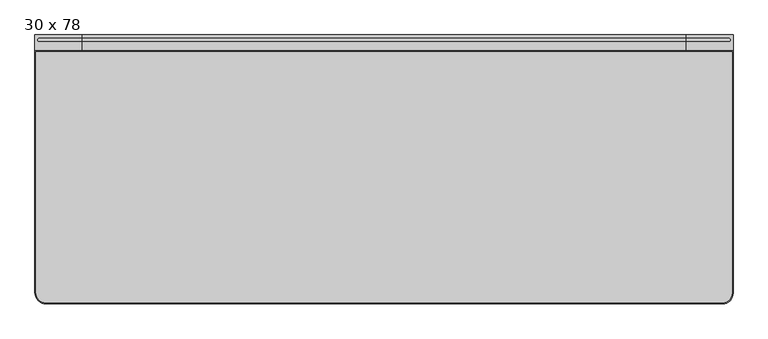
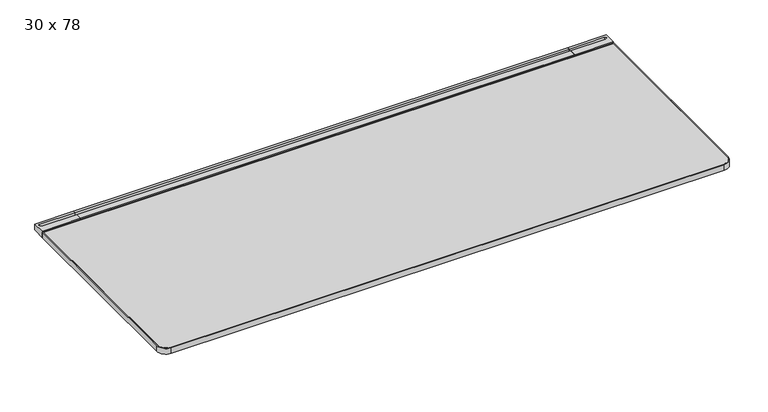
"""IFC4 building model written with IfcOpenShell, lengths in millimetres: furniture geometry, Steelcase - C Scape - Desking - Straight : 30 x 78."""

from ifc_helpers import new_model, si_unit, point, frame, frame_2d, origin, place, context, project, spatial, polyline, circle_curve, trimmed, segment, composite_curve, outline, extrude, faceted_brep, source, transform, mapped, element, save
from ifc_brep_helpers import plane_surface, cylinder_surface, revolved_surface, advanced_brep


def furniture_30_x_78_0295c53c(model_context):
    return source(origin(), model_context, "Body", "SolidModel", [
        advanced_brep(
        [(1846.6562243, -45.3135132, 703.3768), (1846.6562243, -45.3135132, 722.4268341), (1846.6562243, -42.7750923, 722.4268341), (1846.6562243, -42.7750923, 725.932), (1846.6562243, -19.3290527, 725.932), (1846.6562243, -19.3290527, 713.486), (1846.6562243, -8.5111084, 713.486), (1846.6562243, -8.5111084, 725.932), (1846.6562243, 0.0, 725.932), (1846.6562243, 0.0, 705.1038636), (1846.6562243, -3.2278472, 705.1038636), (1846.6562243, -4.0331902, 703.3768), (1979.6760119, -45.3135132, 703.3768), (1979.6760119, -4.0331902, 703.3768), (1979.6760119, -3.2278472, 705.1038636), (1979.6760119, 0.0, 705.1038636), (1979.6760119, 0.0, 725.932), (1979.6760119, -42.7750923, 725.932), (1979.6760119, -42.7750923, 722.4268341), (1979.6760119, -45.3135132, 722.4268341), (1967.9139392, -8.5111084, 725.932), (1967.9139392, -19.3290527, 725.932), (1967.9139392, -19.3290527, 713.486), (1967.9139392, -8.5111084, 713.486)],
        [
            (0, 1),
            (1, 2),
            (2, 3),
            (3, 4),
            (4, 5),
            (5, 6),
            (6, 7),
            (7, 8),
            (8, 9),
            (9, 10),
            (10, 11),
            (11, 0),
            (12, 13),
            (13, 14),
            (14, 15),
            (15, 16),
            (16, 17),
            (17, 18),
            (18, 19),
            (19, 12),
            (11, 13),
            (12, 0),
            (10, 14),
            (9, 15),
            (8, 16),
            (7, 20),
            (20, 21, circle_curve(frame((1967.9139392, -13.9200806, 725.932), z_axis=(0.0, 0.0, -1.0), x_axis=(-1.0, 0.0, 0.0)), 5.4089722)),
            (21, 4),
            (3, 17),
            (2, 18),
            (1, 19),
            (5, 22),
            (22, 23, circle_curve(frame((1967.9139392, -13.9200806, 713.486), z_axis=(0.0, 0.0, 1.0), x_axis=(-1.0, 0.0, 0.0)), 5.4089722)),
            (23, 6),
            (23, 20),
            (22, 21),
        ],
        [
            plane_surface(frame((1846.6562243, -45.3135132, 703.3768), z_axis=(-1.0, 0.0, 0.0), x_axis=(0.0, 1.0, 0.0))),
            plane_surface(frame((1979.6760119, -45.3135132, 703.3768), z_axis=(1.0, 0.0, 0.0), x_axis=(0.0, -1.0, 0.0))),
            plane_surface(frame((1846.6562243, -45.3135132, 703.3768), z_axis=(0.0, 0.0, -1.0), x_axis=(1.0, 0.0, 0.0))),
            plane_surface(frame((1846.6562243, -4.0331902, 703.3768), z_axis=(0.0, 0.9063077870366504, -0.4226182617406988), x_axis=(1.0, 0.0, 0.0))),
            plane_surface(frame((1846.6562243, -3.2278472, 705.1038636), z_axis=(0.0, 0.0, -1.0), x_axis=(1.0, 0.0, 0.0))),
            plane_surface(frame((1846.6562243, 0.0, 705.1038636), z_axis=(0.0, 1.0, 0.0), x_axis=(1.0, 0.0, 0.0))),
            plane_surface(frame((1846.6562243, 0.0, 725.932), z_axis=(0.0, 0.0, 1.0), x_axis=(1.0, 0.0, 0.0))),
            plane_surface(frame((1846.6562243, -42.7750923, 725.932), z_axis=(0.0, -1.0, 0.0), x_axis=(1.0, 0.0, 0.0))),
            plane_surface(frame((1846.6562243, -42.7750923, 722.4268341), z_axis=(0.0, 0.0, 1.0), x_axis=(1.0, 0.0, 0.0))),
            plane_surface(frame((1846.6562243, -45.3135132, 722.4268341), z_axis=(0.0, -1.0, 0.0), x_axis=(1.0, 0.0, 0.0))),
            plane_surface(frame((1967.9139392, -8.5111084, 713.486), z_axis=(0.0, 0.0, 1.0), x_axis=(-1.0, 0.0, 0.0))),
            plane_surface(frame((1846.6562243, -8.5111084, 731.2180541), z_axis=(0.0, -1.0, 0.0), x_axis=(0.0, 0.0, -1.0))),
            revolved_surface(polyline([(1962.5049669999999, -13.9200806, 725.932), (1962.5049669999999, -13.9200806, 713.486)]), (1967.9139392, -13.9200806, 713.486), (0.0, 0.0, 1.0)),
            plane_surface(frame((1967.9139392, -19.3290527, 731.2180541), z_axis=(0.0, 1.0, 0.0), x_axis=(0.0, 0.0, -1.0))),
        ],
        [
            (0, [[1, 2, 3, 4, 5, 6, 7, 8, 9, 10, 11, 12]]),
            (1, [[13, 14, 15, 16, 17, 18, 19, 20]]),
            (2, [[21, -13, 22, -12]]),
            (3, [[23, -14, -21, -11]]),
            (4, [[24, -15, -23, -10]]),
            (5, [[25, -16, -24, -9]]),
            (6, [[-25, -8, 26, 27, 28, -4, 29, -17]]),
            (7, [[30, -18, -29, -3]]),
            (8, [[31, -19, -30, -2]]),
            (9, [[-22, -20, -31, -1]]),
            (10, [[-6, 32, 33, 34]]),
            (11, [[35, -26, -7, -34]]),
            (12, [[36, -27, -35, -33]]),
            (13, [[-5, -28, -36, -32]]),
        ],
    ),
        faceted_brep([(1960.6252487, -565.0752923, 700.7093833), (1960.6252487, -565.0752923, 703.3768), (1846.6562243, -565.0752923, 703.3768), (1846.6562243, -565.0752923, 679.3263935), (1862.2903818, -565.0752923, 679.3263935), (1864.910924, -565.0752923, 693.4200291), (1946.3501391, -565.0752923, 693.4200291), (1960.6252487, -4.0331902, 700.7093833), (1946.3501391, -4.0331902, 693.4200291), (1864.910924, -4.0331902, 693.4200291), (1853.0046772, -4.0331902, 629.3866), (1846.6562243, -4.0331902, 629.3866), (1846.6562243, -4.0331902, 703.3768), (1960.6252487, -4.0331902, 703.3768), (1860.1251068, -376.5599397, 667.6812472), (1853.0046772, -364.1172546, 629.3866), (1846.6562243, -364.1172546, 629.3866), (1846.6562243, -376.5599397, 667.6812472)], [[[0, 1, 2, 3, 4, 5, 6]], [[7, 8, 9, 10, 11, 12, 13]], [[6, 8, 7, 0]], [[5, 9, 8, 6]], [[9, 5, 4, 14, 15, 10]], [[10, 15, 16, 11]], [[11, 16, 17, 3, 2, 12]], [[1, 13, 12, 2]], [[0, 7, 13, 1]], [[14, 4, 3, 17]], [[17, 16, 15, 14]]]),
        extrude(outline(composite_curve([segment(polyline([(-293.5216187, 657.3775839), (-559.0022133, 680.1371551)]), True, "CONTINUOUS"), segment(trimmed(circle_curve(frame_2d((-558.7581271, 682.9843154)), 2.8576039), [point((-559.0022133, 680.1371551))], [point((-561.5383043, 682.3236226))], False, "CARTESIAN"), True, "CONTINUOUS"), segment(polyline([(-561.5383043, 682.3236226), (-566.0887542, 701.4717905), (-557.8334441, 701.4717905), (-557.8334441, 703.3768), (-442.6683806, 703.3768), (-442.6683806, 696.3917953), (-318.2108611, 696.3917953), (-318.2108611, 703.3768), (-293.5216187, 703.3768), (-293.5216187, 657.3775839)]), True, "CONTINUOUS")], self_intersect=False)), frame((954.024, 0.0, 0.0), z_axis=(1.0, 0.0, 0.0), x_axis=(0.0, 1.0, 0.0)), (0.0, 0.0, 1.0), 73.152),
        advanced_brep(
        [(134.6072876, -45.3135132, 703.3768), (134.6072876, -4.0331902, 703.3768), (134.6072876, -3.2278472, 705.1038636), (134.6072876, 0.0, 705.1038636), (134.6072876, 0.0, 725.932), (134.6072876, -8.5111084, 725.932), (134.6072876, -8.5111084, 713.486), (134.6072876, -19.3290527, 713.486), (134.6072876, -19.3290527, 725.932), (134.6072876, -42.7750923, 725.932), (134.6072876, -42.7750923, 722.4268341), (134.6072876, -45.3135132, 722.4268341), (1.5875, -45.3135132, 703.3768), (1.5875, -45.3135132, 722.4268341), (1.5875, -42.7750923, 722.4268341), (1.5875, -42.7750923, 725.932), (1.5875, 0.0, 725.932), (1.5875, 0.0, 705.1038636), (1.5875, -3.2278472, 705.1038636), (1.5875, -4.0331902, 703.3768), (13.3495728, -19.3290527, 725.932), (13.3495728, -8.5111084, 725.932), (13.3495728, -8.5111084, 713.486), (13.3495728, -19.3290527, 713.486)],
        [
            (0, 1),
            (1, 2),
            (2, 3),
            (3, 4),
            (4, 5),
            (5, 6),
            (6, 7),
            (7, 8),
            (8, 9),
            (9, 10),
            (10, 11),
            (11, 0),
            (12, 13),
            (13, 14),
            (14, 15),
            (15, 16),
            (16, 17),
            (17, 18),
            (18, 19),
            (19, 12),
            (0, 12),
            (19, 1),
            (18, 2),
            (17, 3),
            (16, 4),
            (15, 9),
            (8, 20),
            (20, 21, circle_curve(frame((13.3495728, -13.9200806, 725.932), z_axis=(0.0, 0.0, -1.0), x_axis=(1.0, 0.0, 0.0)), 5.4089722)),
            (21, 5),
            (14, 10),
            (13, 11),
            (6, 22),
            (22, 23, circle_curve(frame((13.3495728, -13.9200806, 713.486), z_axis=(0.0, 0.0, 1.0), x_axis=(1.0, 0.0, 0.0)), 5.4089722)),
            (23, 7),
            (21, 22),
            (20, 23),
        ],
        [
            plane_surface(frame((134.6072876, -45.3135132, 703.3768), z_axis=(1.0, 0.0, 0.0), x_axis=(0.0, 1.0, 0.0))),
            plane_surface(frame((1.5875, -45.3135132, 703.3768), z_axis=(-1.0, 0.0, 0.0), x_axis=(0.0, -1.0, 0.0))),
            plane_surface(frame((134.6072876, -45.3135132, 703.3768), z_axis=(0.0, 0.0, -1.0), x_axis=(-1.0, 0.0, 0.0))),
            plane_surface(frame((134.6072876, -4.0331902, 703.3768), z_axis=(0.0, 0.9063077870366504, -0.4226182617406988), x_axis=(-1.0, 0.0, 0.0))),
            plane_surface(frame((134.6072876, -3.2278472, 705.1038636), z_axis=(0.0, 0.0, -1.0), x_axis=(-1.0, 0.0, 0.0))),
            plane_surface(frame((134.6072876, 0.0, 705.1038636), z_axis=(0.0, 1.0, 0.0), x_axis=(-1.0, 0.0, 0.0))),
            plane_surface(frame((134.6072876, 0.0, 725.932), z_axis=(0.0, 0.0, 1.0), x_axis=(-1.0, 0.0, 0.0))),
            plane_surface(frame((134.6072876, -42.7750923, 725.932), z_axis=(0.0, -1.0, 0.0), x_axis=(-1.0, 0.0, 0.0))),
            plane_surface(frame((134.6072876, -42.7750923, 722.4268341), z_axis=(0.0, 0.0, 1.0), x_axis=(-1.0, 0.0, 0.0))),
            plane_surface(frame((134.6072876, -45.3135132, 722.4268341), z_axis=(0.0, -1.0, 0.0), x_axis=(-1.0, 0.0, 0.0))),
            plane_surface(frame((13.3495728, -8.5111084, 713.486), z_axis=(0.0, 0.0, 1.0), x_axis=(1.0, 0.0, 0.0))),
            plane_surface(frame((134.6072876, -8.5111084, 731.2180541), z_axis=(0.0, -1.0, 0.0), x_axis=(0.0, 0.0, -1.0))),
            revolved_surface(polyline([(18.758545, -13.9200806, 725.932), (18.758545, -13.9200806, 713.486)]), (13.3495728, -13.9200806, 713.486), (0.0, 0.0, 1.0)),
            plane_surface(frame((13.3495728, -19.3290527, 731.2180541), z_axis=(0.0, 1.0, 0.0), x_axis=(0.0, 0.0, -1.0))),
        ],
        [
            (0, [[1, 2, 3, 4, 5, 6, 7, 8, 9, 10, 11, 12]]),
            (1, [[13, 14, 15, 16, 17, 18, 19, 20]]),
            (2, [[-1, 21, -20, 22]]),
            (3, [[-2, -22, -19, 23]]),
            (4, [[-3, -23, -18, 24]]),
            (5, [[-4, -24, -17, 25]]),
            (6, [[-16, 26, -9, 27, 28, 29, -5, -25]]),
            (7, [[-10, -26, -15, 30]]),
            (8, [[-11, -30, -14, 31]]),
            (9, [[-12, -31, -13, -21]]),
            (10, [[32, 33, 34, -7]]),
            (11, [[-32, -6, -29, 35]]),
            (12, [[-33, -35, -28, 36]]),
            (13, [[-34, -36, -27, -8]]),
        ],
    ),
        faceted_brep([(20.6382632, -565.0752923, 700.7093833), (34.9133728, -565.0752923, 693.4200291), (116.3525879, -565.0752923, 693.4200291), (118.9731301, -565.0752923, 679.3263935), (134.6072876, -565.0752923, 679.3263935), (134.6072876, -565.0752923, 703.3768), (20.6382632, -565.0752923, 703.3768), (20.6382632, -4.0331902, 700.7093833), (20.6382632, -4.0331902, 703.3768), (134.6072876, -4.0331902, 703.3768), (134.6072876, -4.0331902, 629.3866), (128.2588347, -4.0331902, 629.3866), (116.3525879, -4.0331902, 693.4200291), (34.9133728, -4.0331902, 693.4200291), (128.2588347, -364.1172546, 629.3866), (121.1384051, -376.5599397, 667.6812472), (134.6072876, -364.1172546, 629.3866), (134.6072876, -376.5599397, 667.6812472)], [[[0, 1, 2, 3, 4, 5, 6]], [[7, 8, 9, 10, 11, 12, 13]], [[1, 0, 7, 13]], [[2, 1, 13, 12]], [[12, 11, 14, 15, 3, 2]], [[11, 10, 16, 14]], [[10, 9, 5, 4, 17, 16]], [[6, 5, 9, 8]], [[0, 6, 8, 7]], [[15, 17, 4, 3]], [[17, 15, 14, 16]]]),
        extrude(outline(polyline([(-8.5111084, 725.932), (0.0, 725.932), (0.0, 705.1038636), (-3.2278472, 705.1038636), (-4.0331902, 703.3768), (-45.3135132, 703.3768), (-45.3135132, 722.4268341), (-42.7750923, 722.4268341), (-42.7750923, 725.932), (-19.3290527, 725.932), (-19.3290527, 713.486), (-8.5111084, 713.486), (-8.5111084, 725.932)])), frame((134.6072876, 0.0, 0.0), z_axis=(1.0, 0.0, 0.0), x_axis=(0.0, 1.0, 0.0)), (0.0, 0.0, 1.0), 1712.0489367),
        extrude(outline(polyline([(134.6072876, -293.5216187), (134.6072876, -4.0331902), (1846.6562243, -4.0331902), (1846.6562243, -293.5216187), (134.6072876, -293.5216187)])), frame((0.0, 0.0, 629.3866), z_axis=(0.0, 0.0, 1.0), x_axis=(1.0, 0.0, 0.0)), (0.0, 0.0, 1.0), 73.9902),
        advanced_brep(
        [(4.6355, -48.3660689, 723.9), (4.6355, -730.25, 723.9), (33.3375, -758.9490234, 723.9), (1949.8737019, -758.9490234, 723.9), (1976.6273608, -732.1953645, 723.9), (1976.6273608, -48.3660689, 723.9), (4.6355, -48.3660689, 703.3768), (1976.6273608, -48.3660689, 703.3768), (1976.6273608, -732.1953645, 703.3768), (1949.8737019, -758.9490234, 703.3768), (33.3375, -758.9490234, 703.3768), (4.6384766, -730.25, 703.3768)],
        [
            (0, 1),
            (1, 2, circle_curve(frame((33.3375, -730.25, 723.9), z_axis=(0.0, 0.0, 1.0), x_axis=(1.0, 0.0, 0.0)), 28.6990234)),
            (2, 3),
            (3, 4, circle_curve(frame((1949.8737019, -732.1953645, 723.9), z_axis=(0.0, 0.0, 1.0), x_axis=(1.0, 0.0, 0.0)), 26.7536589)),
            (4, 5),
            (5, 0),
            (6, 7),
            (7, 8),
            (8, 9, circle_curve(frame((1949.8737019, -732.1953645, 703.3768), z_axis=(0.0, 0.0, -1.0), x_axis=(1.0, 0.0, 0.0)), 26.7536589)),
            (9, 10),
            (10, 11, circle_curve(frame((33.3375, -730.25, 703.3768), z_axis=(0.0, 0.0, -1.0), x_axis=(1.0, 0.0, 0.0)), 28.6990234)),
            (11, 6),
            (0, 6),
            (11, 1),
            (10, 2),
            (9, 3),
            (8, 4),
            (7, 5),
        ],
        [
            plane_surface(frame((4.6355, -48.3660689, 723.9), z_axis=(0.0, 0.0, 1.0), x_axis=(0.0, -1.0, 0.0))),
            plane_surface(frame((4.6355, -48.3660689, 703.3768), z_axis=(0.0, 0.0, -1.0), x_axis=(0.0, 1.0, 0.0))),
            plane_surface(frame((4.6355, -48.3660689, 723.9), z_axis=(-1.0, 0.0, 0.0), x_axis=(0.0, 0.0, -1.0))),
            cylinder_surface(frame((33.3375, -730.25, 703.3768), z_axis=(0.0, 0.0, 1.0), x_axis=(1.0, 0.0, 0.0)), 28.6990234),
            plane_surface(frame((33.3375, -758.9490234, 723.9), z_axis=(0.0, -1.0, 0.0), x_axis=(0.0, 0.0, -1.0))),
            cylinder_surface(frame((1949.8737019, -732.1953645, 703.3768), z_axis=(0.0, 0.0, 1.0), x_axis=(1.0, 0.0, 0.0)), 26.7536589),
            plane_surface(frame((1976.6273608, -732.1953645, 723.9), z_axis=(1.0, 0.0, 0.0), x_axis=(0.0, 0.0, -1.0))),
            plane_surface(frame((1976.6273608, -48.3660689, 723.9), z_axis=(0.0, 1.0, 0.0), x_axis=(0.0, 0.0, -1.0))),
        ],
        [
            (0, [[1, 2, 3, 4, 5, 6]]),
            (1, [[7, 8, 9, 10, 11, 12]]),
            (2, [[-1, 13, -12, 14]]),
            (3, [[-2, -14, -11, 15]]),
            (4, [[-3, -15, -10, 16]]),
            (5, [[-4, -16, -9, 17]]),
            (6, [[-5, -17, -8, 18]]),
            (7, [[-6, -18, -7, -13]]),
        ],
    ),
        extrude(outline(composite_curve([segment(trimmed(circle_curve(frame_2d((33.3375, -730.25)), 31.75), [point((33.3375, -762.0))], [point((1.5875, -730.25))], False, "CARTESIAN"), True, "CONTINUOUS"), segment(polyline([(1.5875, -730.25), (1.5875, -45.3150923), (1979.676, -45.3150923), (1979.676, -732.1250374)]), True, "CONTINUOUS"), segment(trimmed(circle_curve(frame_2d((1949.8010374, -732.1250374)), 29.8749626), [point((1979.676, -732.1250374))], [point((1949.8010374, -762.0))], False, "CARTESIAN"), True, "CONTINUOUS"), segment(polyline([(1949.8010374, -762.0), (33.3375, -762.0)]), True, "CONTINUOUS")], self_intersect=False), holes=[composite_curve([segment(polyline([(1976.6250234, -48.3660689), (4.6384766, -48.3660689), (4.6384766, -730.25)]), True, "CONTINUOUS"), segment(trimmed(circle_curve(frame_2d((33.3375, -730.25)), 28.6990234), [point((4.6384766, -730.25))], [point((33.3375, -758.9490234))], True, "CARTESIAN"), True, "CONTINUOUS"), segment(polyline([(33.3375, -758.9490234), (1949.8010374, -758.9490234)]), True, "CONTINUOUS"), segment(trimmed(circle_curve(frame_2d((1949.8010374, -732.1250374)), 26.8239861), [point((1949.8010374, -758.9490234))], [point((1976.6250234, -732.1250374))], True, "CARTESIAN"), True, "CONTINUOUS"), segment(polyline([(1976.6250234, -732.1250374), (1976.6250234, -48.3660689)]), True, "CONTINUOUS")], self_intersect=False)]), frame((0.0, 0.0, 703.3768), z_axis=(0.0, 0.0, 1.0), x_axis=(1.0, 0.0, 0.0)), (0.0, 0.0, 1.0), 20.5232),
    ])


if __name__ == "__main__":
    model = new_model("IFC4")
    model_context = context("Model", 3, world=origin())
    ifc_project = project(units=[si_unit("LENGTHUNIT", "METRE", prefix="MILLI")], contexts=[model_context])
    site = spatial("IfcSite", under=ifc_project)
    building = spatial("IfcBuilding", under=site)
    placement = place(None, origin())
    furniture_30_x_78_shape = furniture_30_x_78_0295c53c(model_context)
    element("IfcFurniture", 1, ObjectType="Steelcase - C Scape - Desking - Straight : 30 x 78", at=placement, inside=building, context=model_context, shape_type="MappedRepresentation", body=[
        mapped(furniture_30_x_78_shape, transform((0.0, 0.0, 0.0), x_axis=(1.0, 0.0, 0.0), y_axis=(0.0, 1.0, 0.0), z_axis=(0.0, 0.0, 1.0))),
    ])
    save(model, "model.ifc")
